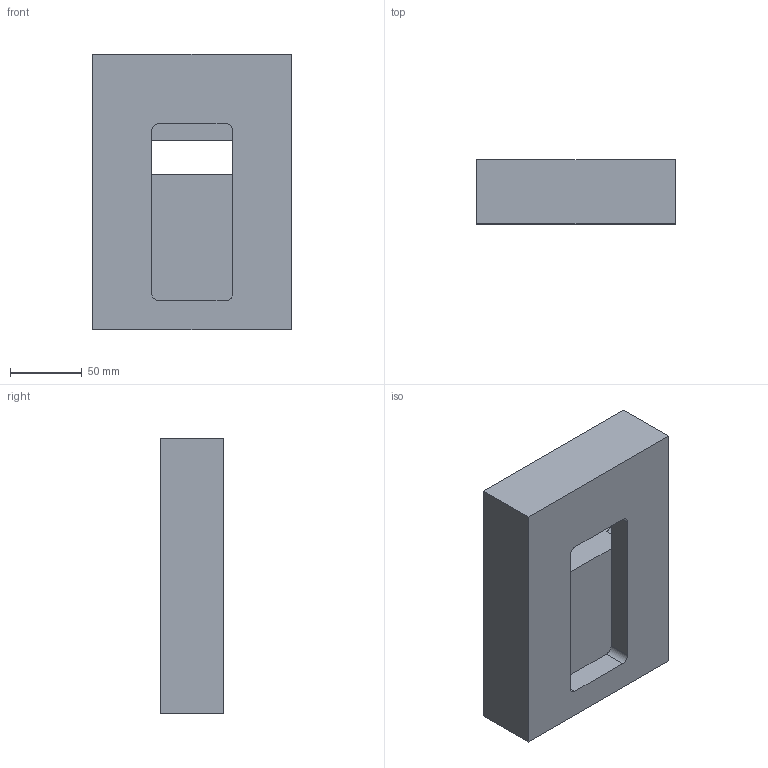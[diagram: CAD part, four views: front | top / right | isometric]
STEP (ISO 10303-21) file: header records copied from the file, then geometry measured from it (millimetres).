
FILE_DESCRIPTION (( 'STEP AP203' ), '1' );
FILE_NAME ('HDST ROUTING TEMPLATE.STEP', '2026-01-16T09:08:31', ( '' ), ( '' ), 'SwSTEP 2.0', 'SolidWorks 2020', '' );
FILE_SCHEMA (( 'CONFIG_CONTROL_DESIGN' ));
Length unit declared in the file: millimetre
Products named in the file (1): HDST ROUTING TEMPLATE
Bounding box: 138.59 x 44.45 x 192.1 mm (x, y, z)
Volume: 958473.4 mm3; surface area: 94255 mm2
Topology: 1 solids, 1 shells, 50 faces, 138 edges, 92 vertices
Faces by surface type: plane 30, cylinder 20
Entity records: 1683 total; most frequent: CARTESIAN_POINT 281, DIRECTION 280, ORIENTED_EDGE 276, EDGE_CURVE 138, LINE 98, VECTOR 98, VERTEX_POINT 92, AXIS2_PLACEMENT_3D 91
